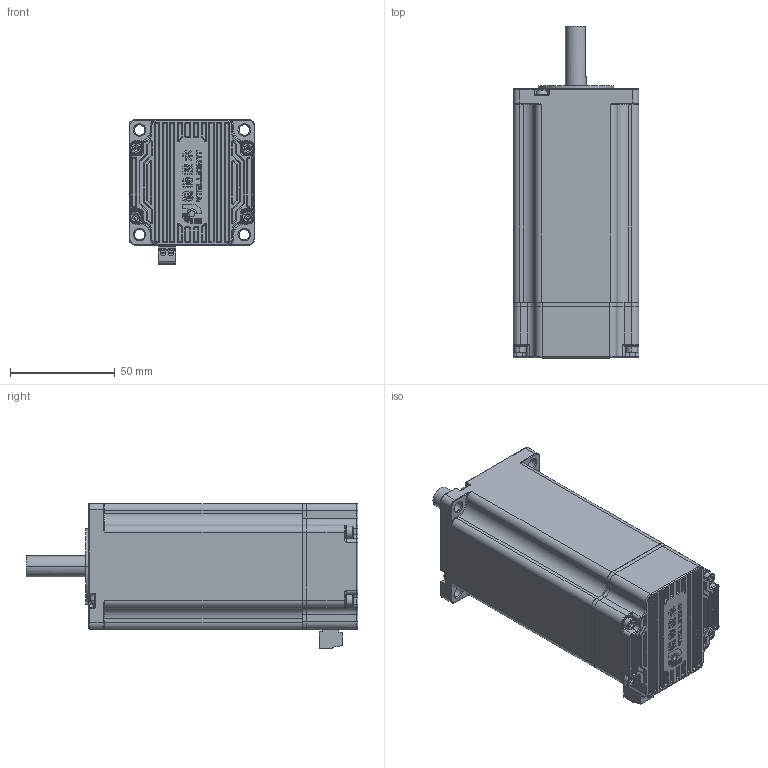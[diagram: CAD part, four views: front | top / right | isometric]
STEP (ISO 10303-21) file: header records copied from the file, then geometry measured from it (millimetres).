
FILE_DESCRIPTION((''),'2;1');
FILE_NAME('PRT0002','2024-08-09T15:56:27',('ruiwe'),(''),'CREO PARAMETRIC BY PTC INC, 2021063','CREO PARAMETRIC BY PTC INC, 2021063','');
FILE_SCHEMA(('CONFIG_CONTROL_DESIGN','SHAPE_APPEARANCE_LAYERS_GROUPS'));
Products named in the file (1): PRT0002
Bounding box: 60.1 x 158.51 x 69.2 mm (x, y, z)
Volume: 129671.9 mm3; surface area: 97185.6 mm2
Topology: 2 solids, 160 shells, 3382 faces, 10101 edges, 6958 vertices
Faces by surface type: plane 1353, cylinder 1163, torus 401, bspline 273, cone 103, sphere 89
Entity records: 155561 total; most frequent: CARTESIAN_POINT 39065, ORIENTED_EDGE 17694, DIRECTION 17628, EDGE_CURVE 10077, VERTEX_POINT 7034, PRESENTATION_STYLE_ASSIGNMENT 6269, STYLED_ITEM 6259, AXIS2_PLACEMENT_3D 6078
